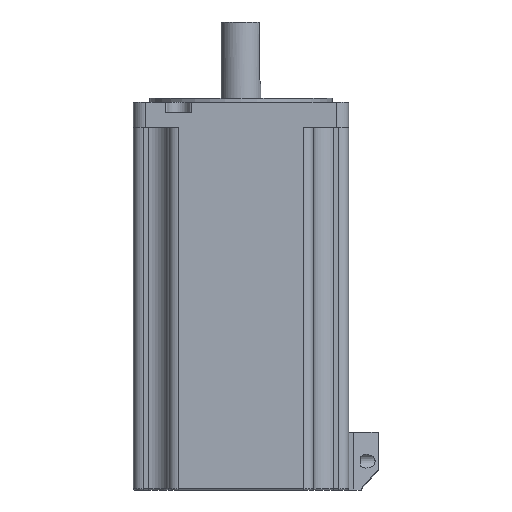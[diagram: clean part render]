
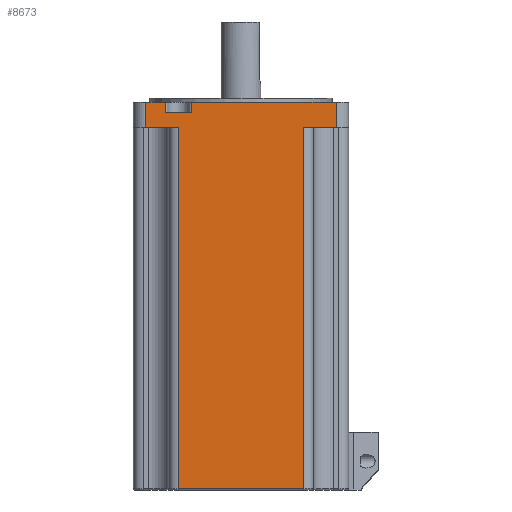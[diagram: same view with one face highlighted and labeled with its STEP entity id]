
A CAD part, front view. The second image highlights one B-rep face of the part: STEP entity #8673.
In plain terms, the highlighted planar face has unit normal (0, -1, 0).
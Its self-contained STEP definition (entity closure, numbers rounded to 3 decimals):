
#1057=DIRECTION('',(0.,0.,1.));
#1058=VECTOR('',#1057,10.);
#1059=CARTESIAN_POINT('',(5.,0.,51.));
#1060=LINE('',#1059,#1058);
#1065=DIRECTION('',(-1.,0.,0.));
#1066=VECTOR('',#1065,7.75);
#1067=CARTESIAN_POINT('',(12.75,0.,61.));
#1068=LINE('',#1067,#1066);
#1069=DIRECTION('',(-1.,0.,0.));
#1070=VECTOR('',#1069,57.75);
#1071=CARTESIAN_POINT('',(81.,0.,61.));
#1072=LINE('',#1071,#1070);
#1077=DIRECTION('',(0.,0.,1.));
#1078=VECTOR('',#1077,144.5);
#1079=CARTESIAN_POINT('',(18.,0.,-93.5));
#1080=LINE('',#1079,#1078);
#1105=DIRECTION('',(-1.,0.,0.));
#1106=VECTOR('',#1105,13.);
#1107=CARTESIAN_POINT('',(18.,0.,51.));
#1108=LINE('',#1107,#1106);
#1212=DIRECTION('',(-1.,0.,0.));
#1213=VECTOR('',#1212,50.);
#1214=CARTESIAN_POINT('',(68.,0.,-93.5));
#1215=LINE('',#1214,#1213);
#1235=DIRECTION('',(0.,0.,-1.));
#1236=VECTOR('',#1235,144.5);
#1237=CARTESIAN_POINT('',(68.,0.,51.));
#1238=LINE('',#1237,#1236);
#1266=DIRECTION('',(-1.,0.,0.));
#1267=VECTOR('',#1266,13.);
#1268=CARTESIAN_POINT('',(81.,0.,51.));
#1269=LINE('',#1268,#1267);
#5800=DIRECTION('',(0.,0.,-1.));
#5801=VECTOR('',#5800,10.);
#5802=CARTESIAN_POINT('',(81.,0.,61.));
#5803=LINE('',#5802,#5801);
#5812=DIRECTION('',(0.,0.,-1.));
#5813=VECTOR('',#5812,4.);
#5814=CARTESIAN_POINT('',(12.75,0.,61.));
#5815=LINE('',#5814,#5813);
#5820=DIRECTION('',(1.,0.,0.));
#5821=VECTOR('',#5820,10.5);
#5822=CARTESIAN_POINT('',(12.75,0.,57.));
#5823=LINE('',#5822,#5821);
#5870=DIRECTION('',(0.,0.,1.));
#5871=VECTOR('',#5870,4.);
#5872=CARTESIAN_POINT('',(23.25,0.,57.));
#5873=LINE('',#5872,#5871);
#6240=CARTESIAN_POINT('',(12.75,0.,57.));
#6241=CARTESIAN_POINT('',(23.25,0.,57.));
#6242=VERTEX_POINT('',#6240);
#6243=VERTEX_POINT('',#6241);
#6292=CARTESIAN_POINT('',(5.,0.,61.));
#6293=VERTEX_POINT('',#6292);
#6294=CARTESIAN_POINT('',(12.75,0.,61.));
#6295=VERTEX_POINT('',#6294);
#6304=CARTESIAN_POINT('',(23.25,0.,61.));
#6305=VERTEX_POINT('',#6304);
#6306=CARTESIAN_POINT('',(81.,0.,61.));
#6307=VERTEX_POINT('',#6306);
#6348=CARTESIAN_POINT('',(18.,0.,-93.5));
#6349=CARTESIAN_POINT('',(18.,0.,51.));
#6350=VERTEX_POINT('',#6348);
#6351=VERTEX_POINT('',#6349);
#6352=CARTESIAN_POINT('',(68.,0.,-93.5));
#6353=VERTEX_POINT('',#6352);
#6354=CARTESIAN_POINT('',(68.,0.,51.));
#6355=VERTEX_POINT('',#6354);
#6356=CARTESIAN_POINT('',(81.,0.,51.));
#6357=VERTEX_POINT('',#6356);
#6358=CARTESIAN_POINT('',(5.,0.,51.));
#6359=VERTEX_POINT('',#6358);
#8645=CARTESIAN_POINT('',(0.,0.,61.));
#8646=DIRECTION('',(0.,1.,0.));
#8647=DIRECTION('',(-1.,0.,0.));
#8648=AXIS2_PLACEMENT_3D('',#8645,#8646,#8647);
#8649=PLANE('',#8648);
#8651=ORIENTED_EDGE('',*,*,#8650,.T.);
#8653=ORIENTED_EDGE('',*,*,#8652,.T.);
#8654=ORIENTED_EDGE('',*,*,#8637,.T.);
#8655=ORIENTED_EDGE('',*,*,#7345,.F.);
#8657=ORIENTED_EDGE('',*,*,#8656,.T.);
#8659=ORIENTED_EDGE('',*,*,#8658,.T.);
#8661=ORIENTED_EDGE('',*,*,#8660,.T.);
#8662=ORIENTED_EDGE('',*,*,#7333,.F.);
#8664=ORIENTED_EDGE('',*,*,#8663,.T.);
#8666=ORIENTED_EDGE('',*,*,#8665,.T.);
#8668=ORIENTED_EDGE('',*,*,#8667,.T.);
#8670=ORIENTED_EDGE('',*,*,#8669,.T.);
#8671=EDGE_LOOP('',(#8651,#8653,#8654,#8655,#8657,#8659,#8661,#8662,#8664,#8666,
#8668,#8670));
#8672=FACE_OUTER_BOUND('',#8671,.F.);
#8673=ADVANCED_FACE('',(#8672),#8649,.F.);
#7333=EDGE_CURVE('',#6307,#6305,#1072,.T.);
#7345=EDGE_CURVE('',#6295,#6293,#1068,.T.);
#8637=EDGE_CURVE('',#6359,#6293,#1060,.T.);
#8650=EDGE_CURVE('',#6350,#6351,#1080,.T.);
#8652=EDGE_CURVE('',#6351,#6359,#1108,.T.);
#8656=EDGE_CURVE('',#6295,#6242,#5815,.T.);
#8658=EDGE_CURVE('',#6242,#6243,#5823,.T.);
#8660=EDGE_CURVE('',#6243,#6305,#5873,.T.);
#8663=EDGE_CURVE('',#6307,#6357,#5803,.T.);
#8665=EDGE_CURVE('',#6357,#6355,#1269,.T.);
#8667=EDGE_CURVE('',#6355,#6353,#1238,.T.);
#8669=EDGE_CURVE('',#6353,#6350,#1215,.T.);
